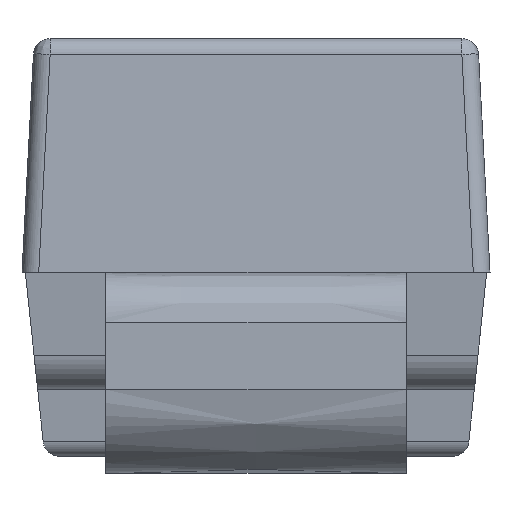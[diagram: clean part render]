
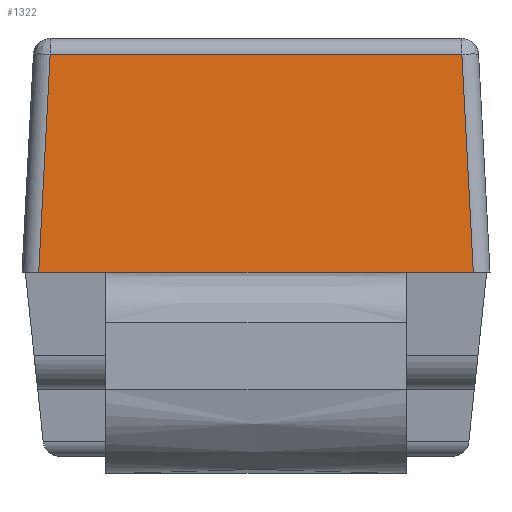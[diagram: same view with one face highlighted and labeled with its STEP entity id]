
A CAD part, front view. The second image highlights one B-rep face of the part: STEP entity #1322.
In plain terms, the highlighted planar face has unit normal (0, -0.999, 0.052).
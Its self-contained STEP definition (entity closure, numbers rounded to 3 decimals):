
#2 = EDGE_CURVE ( 'NONE', #1412, #1444, #841, .T. ) ;
#4 = EDGE_CURVE ( 'NONE', #1444, #1418, #837, .T. ) ;
#72 = AXIS2_PLACEMENT_3D ( 'NONE', #679, #601, #603 ) ;
#123 = DIRECTION ( 'NONE',  ( 1., 0., 0. ) ) ;
#132 = DIRECTION ( 'NONE',  ( -0.052, -0.052, -0.997 ) ) ;
#139 = CARTESIAN_POINT ( 'NONE',  ( -0.616, -0.966, 0.653 ) ) ;
#141 = CARTESIAN_POINT ( 'NONE',  ( -0.576, -1., 0. ) ) ;
#167 = LINE ( 'NONE', #313, #170 ) ;
#170 = VECTOR ( 'NONE', #314, 1000. ) ;
#206 = LINE ( 'NONE', #403, #208 ) ;
#207 = LINE ( 'NONE', #412, #210 ) ;
#208 = VECTOR ( 'NONE', #404, 1000. ) ;
#210 = VECTOR ( 'NONE', #414, 1000. ) ;
#313 = CARTESIAN_POINT ( 'NONE',  ( 0.575, -1., 0. ) ) ;
#314 = DIRECTION ( 'NONE',  ( 1., 0., 0. ) ) ;
#403 = CARTESIAN_POINT ( 'NONE',  ( 0.65, -1., 0. ) ) ;
#404 = DIRECTION ( 'NONE',  ( -0.052, 0.052, 0.997 ) ) ;
#412 = CARTESIAN_POINT ( 'NONE',  ( 0., -0.966, 0.653 ) ) ;
#414 = DIRECTION ( 'NONE',  ( -1., 0., 0. ) ) ;
#601 = DIRECTION ( 'NONE',  ( 0., -0.999, 0.052 ) ) ;
#603 = DIRECTION ( 'NONE',  ( 0., -0.052, -0.999 ) ) ;
#674 = PLANE ( 'NONE',  #72 ) ;
#679 = CARTESIAN_POINT ( 'NONE',  ( -0.65, -0.966, 0.653 ) ) ;
#785 = EDGE_CURVE ( 'NONE', #1418, #1183, #914, .T. ) ;
#837 = LINE ( 'NONE', #141, #843 ) ;
#841 = LINE ( 'NONE', #139, #842 ) ;
#842 = VECTOR ( 'NONE', #132, 1000. ) ;
#843 = VECTOR ( 'NONE', #123, 1000. ) ;
#914 = LINE ( 'NONE', #2178, #927 ) ;
#927 = VECTOR ( 'NONE', #2133, 1000. ) ;
#1058 = FACE_OUTER_BOUND ( 'NONE', #1554, .T. ) ;
#1171 = VERTEX_POINT ( 'NONE', #2216 ) ;
#1175 = VERTEX_POINT ( 'NONE', #2244 ) ;
#1183 = VERTEX_POINT ( 'NONE', #2185 ) ;
#1322 = ADVANCED_FACE ( 'NONE', ( #1058 ), #674, .T. ) ;
#1354 = CARTESIAN_POINT ( 'NONE',  ( -0.45, -1., 0. ) ) ;
#1357 = CARTESIAN_POINT ( 'NONE',  ( -0.616, -0.966, 0.653 ) ) ;
#1361 = CARTESIAN_POINT ( 'NONE',  ( -0.65, -1., 0. ) ) ;
#1412 = VERTEX_POINT ( 'NONE', #1357 ) ;
#1418 = VERTEX_POINT ( 'NONE', #1354 ) ;
#1444 = VERTEX_POINT ( 'NONE', #1361 ) ;
#1554 = EDGE_LOOP ( 'NONE', ( #2292, #2367, #2329, #2360, #2338, #2278 ) ) ;
#1997 = EDGE_CURVE ( 'NONE', #1183, #1175, #167, .T. ) ;
#2031 = EDGE_CURVE ( 'NONE', #1175, #1171, #206, .T. ) ;
#2032 = EDGE_CURVE ( 'NONE', #1171, #1412, #207, .T. ) ;
#2133 = DIRECTION ( 'NONE',  ( 1., 0., 0. ) ) ;
#2178 = CARTESIAN_POINT ( 'NONE',  ( 0., -1., 0. ) ) ;
#2185 = CARTESIAN_POINT ( 'NONE',  ( 0.45, -1., 0. ) ) ;
#2216 = CARTESIAN_POINT ( 'NONE',  ( 0.616, -0.966, 0.653 ) ) ;
#2244 = CARTESIAN_POINT ( 'NONE',  ( 0.65, -1., 0. ) ) ;
#2278 = ORIENTED_EDGE ( 'NONE', *, *, #2032, .T. ) ;
#2292 = ORIENTED_EDGE ( 'NONE', *, *, #2, .T. ) ;
#2329 = ORIENTED_EDGE ( 'NONE', *, *, #785, .T. ) ;
#2338 = ORIENTED_EDGE ( 'NONE', *, *, #2031, .T. ) ;
#2360 = ORIENTED_EDGE ( 'NONE', *, *, #1997, .T. ) ;
#2367 = ORIENTED_EDGE ( 'NONE', *, *, #4, .T. ) ;
